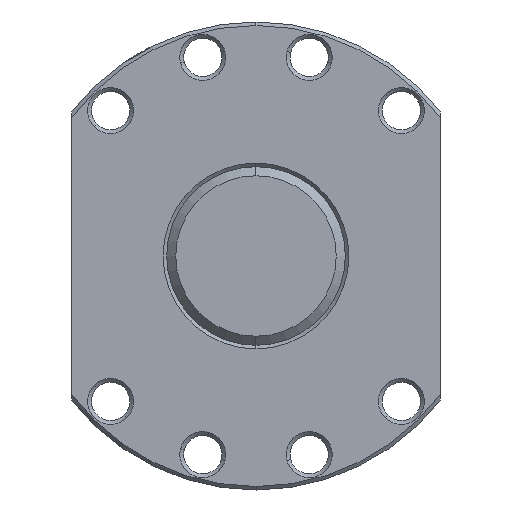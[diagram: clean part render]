
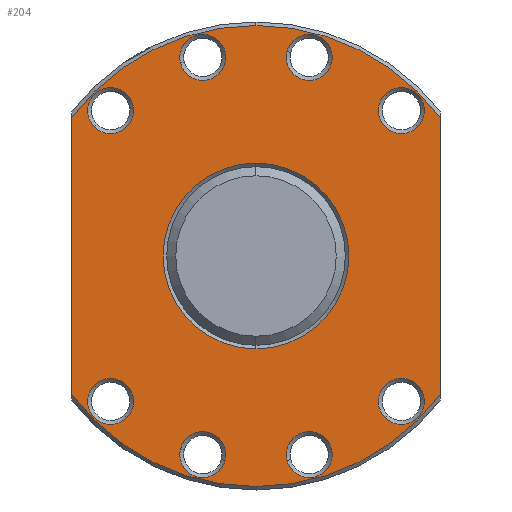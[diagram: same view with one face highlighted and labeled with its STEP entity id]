
A CAD part, left-side view. The second image highlights one B-rep face of the part: STEP entity #204.
In plain terms, the highlighted planar face has unit normal (-1, 0, 0).
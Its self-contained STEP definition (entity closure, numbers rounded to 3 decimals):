
#204=ADVANCED_FACE('',(#386,#387,#388,#389,#390,#391,#392,#393,#394,#395),#396,.T.);
#386=FACE_BOUND('',#587,.T.);
#387=FACE_OUTER_BOUND('',#588,.T.);
#388=FACE_BOUND('',#589,.T.);
#389=FACE_BOUND('',#590,.T.);
#390=FACE_BOUND('',#591,.T.);
#391=FACE_BOUND('',#592,.T.);
#392=FACE_BOUND('',#593,.T.);
#393=FACE_BOUND('',#594,.T.);
#394=FACE_BOUND('',#595,.T.);
#395=FACE_BOUND('',#596,.T.);
#396=PLANE('',#597);
#587=EDGE_LOOP('',(#1207,#1208));
#588=EDGE_LOOP('',(#1209,#1210,#1211,#1212,#1213,#1214));
#589=EDGE_LOOP('',(#1215,#1216));
#590=EDGE_LOOP('',(#1217,#1218));
#591=EDGE_LOOP('',(#1219,#1220));
#592=EDGE_LOOP('',(#1221,#1222));
#593=EDGE_LOOP('',(#1223,#1224));
#594=EDGE_LOOP('',(#1225,#1226));
#595=EDGE_LOOP('',(#1227,#1228));
#596=EDGE_LOOP('',(#1229,#1230));
#597=AXIS2_PLACEMENT_3D('',#1231,#1232,#1233);
#1207=ORIENTED_EDGE('',*,*,#1436,.T.);
#1208=ORIENTED_EDGE('',*,*,#1416,.T.);
#1209=ORIENTED_EDGE('',*,*,#1437,.T.);
#1210=ORIENTED_EDGE('',*,*,#1485,.F.);
#1211=ORIENTED_EDGE('',*,*,#1324,.F.);
#1212=ORIENTED_EDGE('',*,*,#1460,.T.);
#1213=ORIENTED_EDGE('',*,*,#1406,.F.);
#1214=ORIENTED_EDGE('',*,*,#1459,.F.);
#1215=ORIENTED_EDGE('',*,*,#1463,.T.);
#1216=ORIENTED_EDGE('',*,*,#1396,.T.);
#1217=ORIENTED_EDGE('',*,*,#1466,.T.);
#1218=ORIENTED_EDGE('',*,*,#1386,.T.);
#1219=ORIENTED_EDGE('',*,*,#1469,.T.);
#1220=ORIENTED_EDGE('',*,*,#1376,.T.);
#1221=ORIENTED_EDGE('',*,*,#1472,.T.);
#1222=ORIENTED_EDGE('',*,*,#1366,.T.);
#1223=ORIENTED_EDGE('',*,*,#1475,.T.);
#1224=ORIENTED_EDGE('',*,*,#1356,.T.);
#1225=ORIENTED_EDGE('',*,*,#1478,.T.);
#1226=ORIENTED_EDGE('',*,*,#1346,.T.);
#1227=ORIENTED_EDGE('',*,*,#1481,.T.);
#1228=ORIENTED_EDGE('',*,*,#1336,.T.);
#1229=ORIENTED_EDGE('',*,*,#1484,.T.);
#1230=ORIENTED_EDGE('',*,*,#1326,.T.);
#1231=CARTESIAN_POINT('',(25.0,0.0,40.63));
#1232=DIRECTION('',(-1.0,-0.0,0.));
#1233=DIRECTION('',(0.,0.0,-1.0));
#1324=EDGE_CURVE('',#1550,#1548,#1552,.T.);
#1326=EDGE_CURVE('',#1556,#1553,#1557,.T.);
#1336=EDGE_CURVE('',#1574,#1571,#1575,.T.);
#1346=EDGE_CURVE('',#1592,#1589,#1593,.T.);
#1356=EDGE_CURVE('',#1610,#1607,#1611,.T.);
#1366=EDGE_CURVE('',#1628,#1625,#1629,.T.);
#1376=EDGE_CURVE('',#1646,#1643,#1647,.T.);
#1386=EDGE_CURVE('',#1664,#1661,#1665,.T.);
#1396=EDGE_CURVE('',#1682,#1679,#1683,.T.);
#1406=EDGE_CURVE('',#1697,#1700,#1701,.T.);
#1416=EDGE_CURVE('',#1718,#1715,#1719,.T.);
#1436=EDGE_CURVE('',#1715,#1718,#1749,.T.);
#1437=EDGE_CURVE('',#1750,#1751,#1752,.T.);
#1459=EDGE_CURVE('',#1750,#1697,#1780,.T.);
#1460=EDGE_CURVE('',#1550,#1700,#1781,.T.);
#1463=EDGE_CURVE('',#1679,#1682,#1784,.T.);
#1466=EDGE_CURVE('',#1661,#1664,#1787,.T.);
#1469=EDGE_CURVE('',#1643,#1646,#1790,.T.);
#1472=EDGE_CURVE('',#1625,#1628,#1793,.T.);
#1475=EDGE_CURVE('',#1607,#1610,#1796,.T.);
#1478=EDGE_CURVE('',#1589,#1592,#1799,.T.);
#1481=EDGE_CURVE('',#1571,#1574,#1802,.T.);
#1484=EDGE_CURVE('',#1553,#1556,#1805,.T.);
#1485=EDGE_CURVE('',#1548,#1751,#1806,.T.);
#1548=VERTEX_POINT('',#1893);
#1550=VERTEX_POINT('',#1896);
#1552=CIRCLE('',#1907,81.26);
#1553=VERTEX_POINT('',#1908);
#1556=VERTEX_POINT('',#1912);
#1557=CIRCLE('',#1913,8.1);
#1571=VERTEX_POINT('',#1932);
#1574=VERTEX_POINT('',#1936);
#1575=CIRCLE('',#1937,8.1);
#1589=VERTEX_POINT('',#1956);
#1592=VERTEX_POINT('',#1960);
#1593=CIRCLE('',#1961,8.1);
#1607=VERTEX_POINT('',#1980);
#1610=VERTEX_POINT('',#1984);
#1611=CIRCLE('',#1985,8.1);
#1625=VERTEX_POINT('',#2004);
#1628=VERTEX_POINT('',#2008);
#1629=CIRCLE('',#2009,8.1);
#1643=VERTEX_POINT('',#2028);
#1646=VERTEX_POINT('',#2032);
#1647=CIRCLE('',#2033,8.1);
#1661=VERTEX_POINT('',#2052);
#1664=VERTEX_POINT('',#2056);
#1665=CIRCLE('',#2057,8.1);
#1679=VERTEX_POINT('',#2076);
#1682=VERTEX_POINT('',#2080);
#1683=CIRCLE('',#2081,8.1);
#1697=VERTEX_POINT('',#2100);
#1700=VERTEX_POINT('',#2104);
#1701=CIRCLE('',#2105,81.26);
#1715=VERTEX_POINT('',#2140);
#1718=VERTEX_POINT('',#2144);
#1719=CIRCLE('',#2145,32.76);
#1749=CIRCLE('',#2251,32.76);
#1750=VERTEX_POINT('',#2252);
#1751=VERTEX_POINT('',#2253);
#1752=LINE('',#2254,#2255);
#1780=CIRCLE('',#2323,81.26);
#1781=LINE('',#2324,#2325);
#1784=CIRCLE('',#2328,8.1);
#1787=CIRCLE('',#2331,8.1);
#1790=CIRCLE('',#2334,8.1);
#1793=CIRCLE('',#2337,8.1);
#1796=CIRCLE('',#2340,8.1);
#1799=CIRCLE('',#2343,8.1);
#1802=CIRCLE('',#2346,8.1);
#1805=CIRCLE('',#2349,8.1);
#1806=CIRCLE('',#2350,81.26);
#1893=CARTESIAN_POINT('',(25.0,0.,-81.26));
#1896=CARTESIAN_POINT('',(25.0,-65.0,-48.767));
#1907=AXIS2_PLACEMENT_3D('',#2421,#2422,#2423);
#1908=CARTESIAN_POINT('',(25.0,-45.538,56.993));
#1912=CARTESIAN_POINT('',(25.0,-56.993,45.538));
#1913=AXIS2_PLACEMENT_3D('',#2425,#2426,#2427);
#1932=CARTESIAN_POINT('',(25.0,-10.94,72.126));
#1936=CARTESIAN_POINT('',(25.0,-26.588,67.933));
#1937=AXIS2_PLACEMENT_3D('',#2443,#2444,#2445);
#1956=CARTESIAN_POINT('',(25.0,26.588,67.933));
#1960=CARTESIAN_POINT('',(25.0,10.94,72.126));
#1961=AXIS2_PLACEMENT_3D('',#2461,#2462,#2463);
#1980=CARTESIAN_POINT('',(25.0,56.993,45.538));
#1984=CARTESIAN_POINT('',(25.0,45.538,56.993));
#1985=AXIS2_PLACEMENT_3D('',#2479,#2480,#2481);
#2004=CARTESIAN_POINT('',(25.0,45.538,-56.993));
#2008=CARTESIAN_POINT('',(25.0,56.993,-45.538));
#2009=AXIS2_PLACEMENT_3D('',#2497,#2498,#2499);
#2028=CARTESIAN_POINT('',(25.0,10.94,-72.126));
#2032=CARTESIAN_POINT('',(25.0,26.588,-67.933));
#2033=AXIS2_PLACEMENT_3D('',#2515,#2516,#2517);
#2052=CARTESIAN_POINT('',(25.0,-26.588,-67.933));
#2056=CARTESIAN_POINT('',(25.0,-10.94,-72.126));
#2057=AXIS2_PLACEMENT_3D('',#2533,#2534,#2535);
#2076=CARTESIAN_POINT('',(25.0,-56.993,-45.538));
#2080=CARTESIAN_POINT('',(25.0,-45.538,-56.993));
#2081=AXIS2_PLACEMENT_3D('',#2551,#2552,#2553);
#2100=CARTESIAN_POINT('',(25.0,0.,81.26));
#2104=CARTESIAN_POINT('',(25.0,-65.0,48.767));
#2105=AXIS2_PLACEMENT_3D('',#2569,#2570,#2571);
#2140=CARTESIAN_POINT('',(25.0,0.0,32.76));
#2144=CARTESIAN_POINT('',(25.0,0.,-32.76));
#2145=AXIS2_PLACEMENT_3D('',#2585,#2586,#2587);
#2251=AXIS2_PLACEMENT_3D('',#2621,#2622,#2623);
#2252=CARTESIAN_POINT('',(25.0,65.0,48.767));
#2253=CARTESIAN_POINT('',(25.0,65.0,-48.767));
#2254=CARTESIAN_POINT('',(25.0,65.0,20.315));
#2255=VECTOR('',#2624,1.0);
#2323=AXIS2_PLACEMENT_3D('',#2668,#2669,#2670);
#2324=CARTESIAN_POINT('',(25.0,-65.0,20.315));
#2325=VECTOR('',#2671,1.0);
#2328=AXIS2_PLACEMENT_3D('',#2678,#2679,#2680);
#2331=AXIS2_PLACEMENT_3D('',#2687,#2688,#2689);
#2334=AXIS2_PLACEMENT_3D('',#2696,#2697,#2698);
#2337=AXIS2_PLACEMENT_3D('',#2705,#2706,#2707);
#2340=AXIS2_PLACEMENT_3D('',#2714,#2715,#2716);
#2343=AXIS2_PLACEMENT_3D('',#2723,#2724,#2725);
#2346=AXIS2_PLACEMENT_3D('',#2732,#2733,#2734);
#2349=AXIS2_PLACEMENT_3D('',#2741,#2742,#2743);
#2350=AXIS2_PLACEMENT_3D('',#2744,#2745,#2746);
#2421=CARTESIAN_POINT('',(25.0,0.0,0.0));
#2422=DIRECTION('',(1.0,0.0,-0.0));
#2423=DIRECTION('',(0.0,0.0,1.0));
#2425=CARTESIAN_POINT('',(25.0,-51.265,51.265));
#2426=DIRECTION('',(1.0,0.0,0.));
#2427=DIRECTION('',(0.,0.707,0.707));
#2443=CARTESIAN_POINT('',(25.0,-18.764,70.03));
#2444=DIRECTION('',(1.0,0.,0.));
#2445=DIRECTION('',(0.,0.966,0.259));
#2461=CARTESIAN_POINT('',(25.0,18.764,70.03));
#2462=DIRECTION('',(1.0,0.,0.));
#2463=DIRECTION('',(0.,0.966,-0.259));
#2479=CARTESIAN_POINT('',(25.0,51.265,51.265));
#2480=DIRECTION('',(1.0,0.0,0.));
#2481=DIRECTION('',(0.,0.707,-0.707));
#2497=CARTESIAN_POINT('',(25.0,51.265,-51.265));
#2498=DIRECTION('',(1.0,0.0,0.));
#2499=DIRECTION('',(0.,-0.707,-0.707));
#2515=CARTESIAN_POINT('',(25.0,18.764,-70.03));
#2516=DIRECTION('',(1.0,0.,0.));
#2517=DIRECTION('',(0.,-0.966,-0.259));
#2533=CARTESIAN_POINT('',(25.0,-18.764,-70.03));
#2534=DIRECTION('',(1.0,0.,0.));
#2535=DIRECTION('',(0.,-0.966,0.259));
#2551=CARTESIAN_POINT('',(25.0,-51.265,-51.265));
#2552=DIRECTION('',(1.0,0.0,0.));
#2553=DIRECTION('',(0.,-0.707,0.707));
#2569=CARTESIAN_POINT('',(25.0,0.0,0.0));
#2570=DIRECTION('',(1.0,0.0,-0.0));
#2571=DIRECTION('',(0.0,0.0,1.0));
#2585=CARTESIAN_POINT('',(25.0,0.0,0.0));
#2586=DIRECTION('',(1.0,0.0,0.));
#2587=DIRECTION('',(0.,0.0,1.0));
#2621=CARTESIAN_POINT('',(25.0,0.0,0.0));
#2622=DIRECTION('',(1.0,0.0,0.));
#2623=DIRECTION('',(0.,0.0,1.0));
#2624=DIRECTION('',(0.,0.0,-1.0));
#2668=CARTESIAN_POINT('',(25.0,0.0,0.0));
#2669=DIRECTION('',(1.0,0.0,-0.0));
#2670=DIRECTION('',(0.0,0.0,1.0));
#2671=DIRECTION('',(0.,0.0,1.0));
#2678=CARTESIAN_POINT('',(25.0,-51.265,-51.265));
#2679=DIRECTION('',(1.0,0.0,0.));
#2680=DIRECTION('',(0.,-0.707,0.707));
#2687=CARTESIAN_POINT('',(25.0,-18.764,-70.03));
#2688=DIRECTION('',(1.0,0.,0.));
#2689=DIRECTION('',(0.,-0.966,0.259));
#2696=CARTESIAN_POINT('',(25.0,18.764,-70.03));
#2697=DIRECTION('',(1.0,0.,0.));
#2698=DIRECTION('',(0.,-0.966,-0.259));
#2705=CARTESIAN_POINT('',(25.0,51.265,-51.265));
#2706=DIRECTION('',(1.0,0.0,0.));
#2707=DIRECTION('',(0.,-0.707,-0.707));
#2714=CARTESIAN_POINT('',(25.0,51.265,51.265));
#2715=DIRECTION('',(1.0,0.0,0.));
#2716=DIRECTION('',(0.,0.707,-0.707));
#2723=CARTESIAN_POINT('',(25.0,18.764,70.03));
#2724=DIRECTION('',(1.0,0.,0.));
#2725=DIRECTION('',(0.,0.966,-0.259));
#2732=CARTESIAN_POINT('',(25.0,-18.764,70.03));
#2733=DIRECTION('',(1.0,0.,0.));
#2734=DIRECTION('',(0.,0.966,0.259));
#2741=CARTESIAN_POINT('',(25.0,-51.265,51.265));
#2742=DIRECTION('',(1.0,0.0,0.));
#2743=DIRECTION('',(0.,0.707,0.707));
#2744=CARTESIAN_POINT('',(25.0,0.0,0.0));
#2745=DIRECTION('',(1.0,0.0,-0.0));
#2746=DIRECTION('',(0.0,0.0,1.0));
